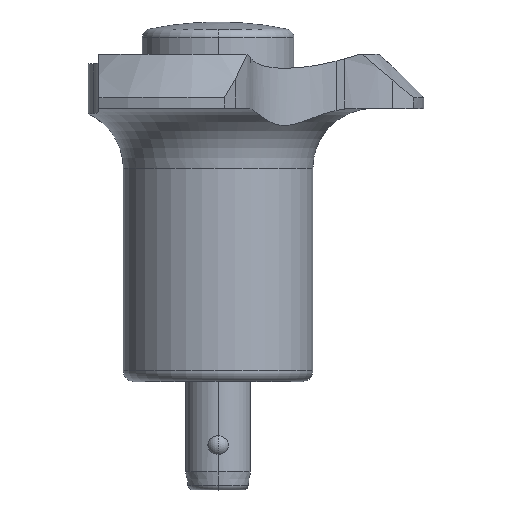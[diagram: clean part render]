
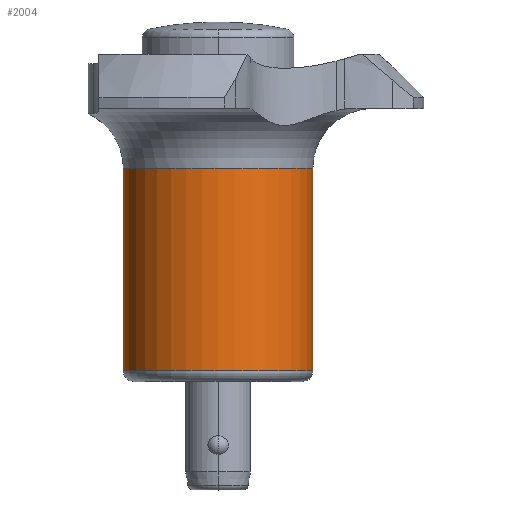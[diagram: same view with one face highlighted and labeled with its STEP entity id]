
A CAD part, top view. The second image highlights one B-rep face of the part: STEP entity #2004.
In plain terms, the highlighted cylindrical face has radius 8.75 mm (diameter 17.5 mm), a partial arc.
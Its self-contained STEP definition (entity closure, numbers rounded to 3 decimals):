
#96 = ORIENTED_EDGE ( 'NONE', *, *, #579, .T. ) ;
#150 = CARTESIAN_POINT ( 'NONE',  ( 0., 1., 0. ) ) ;
#156 = DIRECTION ( 'NONE',  ( 0., 1., 0. ) ) ;
#197 = VECTOR ( 'NONE', #1475, 1000. ) ;
#579 = EDGE_CURVE ( 'NONE', #1671, #834, #815, .T. ) ;
#608 = FACE_OUTER_BOUND ( 'NONE', #1708, .T. ) ;
#767 = AXIS2_PLACEMENT_3D ( 'NONE', #2294, #1386, #2083 ) ;
#794 = LINE ( 'NONE', #2761, #197 ) ;
#815 = LINE ( 'NONE', #2538, #1623 ) ;
#821 = CARTESIAN_POINT ( 'NONE',  ( -8.75, 19.7, 0. ) ) ;
#834 = VERTEX_POINT ( 'NONE', #1569 ) ;
#899 = ORIENTED_EDGE ( 'NONE', *, *, #902, .F. ) ;
#902 = EDGE_CURVE ( 'NONE', #2774, #834, #2578, .T. ) ;
#959 = CIRCLE ( 'NONE', #1550, 8.75 ) ;
#1010 = DIRECTION ( 'NONE',  ( 0., 1., 0. ) ) ;
#1098 = ORIENTED_EDGE ( 'NONE', *, *, #1412, .T. ) ;
#1386 = DIRECTION ( 'NONE',  ( 0., 1., 0. ) ) ;
#1388 = ORIENTED_EDGE ( 'NONE', *, *, #1539, .F. ) ;
#1412 = EDGE_CURVE ( 'NONE', #1998, #1671, #959, .T. ) ;
#1475 = DIRECTION ( 'NONE',  ( 0., 1., 0. ) ) ;
#1539 = EDGE_CURVE ( 'NONE', #1998, #2774, #794, .T. ) ;
#1550 = AXIS2_PLACEMENT_3D ( 'NONE', #150, #1010, #1667 ) ;
#1569 = CARTESIAN_POINT ( 'NONE',  ( 8.75, 19.7, 0. ) ) ;
#1623 = VECTOR ( 'NONE', #1725, 1000. ) ;
#1667 = DIRECTION ( 'NONE',  ( 1., 0., 0. ) ) ;
#1671 = VERTEX_POINT ( 'NONE', #1743 ) ;
#1707 = CARTESIAN_POINT ( 'NONE',  ( 0., 30.2, 0. ) ) ;
#1708 = EDGE_LOOP ( 'NONE', ( #1098, #96, #899, #1388 ) ) ;
#1725 = DIRECTION ( 'NONE',  ( 0., 1., 0. ) ) ;
#1743 = CARTESIAN_POINT ( 'NONE',  ( 8.75, 1., 0. ) ) ;
#1771 = AXIS2_PLACEMENT_3D ( 'NONE', #1707, #156, #2150 ) ;
#1900 = CYLINDRICAL_SURFACE ( 'NONE', #1771, 8.75 ) ;
#1998 = VERTEX_POINT ( 'NONE', #2309 ) ;
#2004 = ADVANCED_FACE ( 'NONE', ( #608 ), #1900, .T. ) ;
#2083 = DIRECTION ( 'NONE',  ( -1., 0., 0. ) ) ;
#2150 = DIRECTION ( 'NONE',  ( -1., 0., 0. ) ) ;
#2294 = CARTESIAN_POINT ( 'NONE',  ( 0., 19.7, 0. ) ) ;
#2309 = CARTESIAN_POINT ( 'NONE',  ( -8.75, 1., 0. ) ) ;
#2538 = CARTESIAN_POINT ( 'NONE',  ( 8.75, 30.2, 0. ) ) ;
#2578 = CIRCLE ( 'NONE', #767, 8.75 ) ;
#2761 = CARTESIAN_POINT ( 'NONE',  ( -8.75, 30.2, 0. ) ) ;
#2774 = VERTEX_POINT ( 'NONE', #821 ) ;
